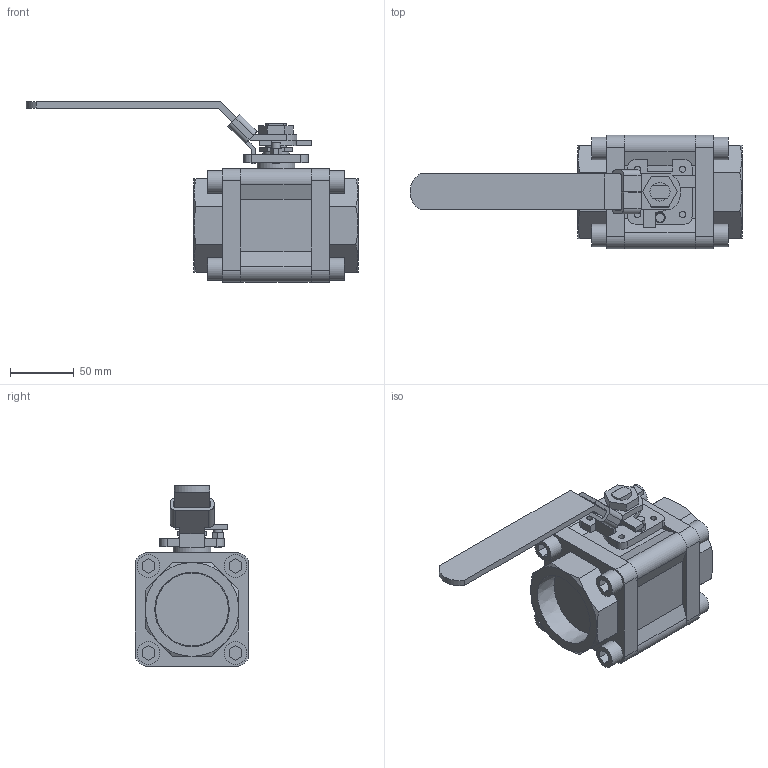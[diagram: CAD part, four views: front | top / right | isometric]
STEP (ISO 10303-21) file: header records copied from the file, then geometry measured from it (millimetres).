
FILE_DESCRIPTION((' '),'2;1');
FILE_NAME('N:\Technical Support\Private\Jomar Valve CAD\Ball Valves\CS and SS\2001N-4B\2.0 T-SS-2001N-4B (600-608) FusionCopy.stp.step','2016-07-05T12:09:59',(' '),(' '),' ','ACIS',' ');
FILE_SCHEMA(('CONFIG_CONTROL_DESIGN'));
Length unit declared in the file: inch
Products named in the file (20): N:\Technical Support\Private\Jomar Valve CAD\Ball Valves\CS and SS\2001N-4B\2.0 T-SS-2001N-4B (600-608) FusionCopy.stp.step; Body1; Body2; Body3; Body4; Body5; Body6; Body7; Body8; Body9; Body10; Body11; Body12; Body13; Body14; Body15; Body16; Body17; Body18; Body19
Assembly tree (19 placements, depth 2):
  N:\Technical Support\Private\Jomar Valve CAD\Ball Valves\CS and SS\2001N-4B\2.0 T-SS-2001N-4B (600-608) FusionCopy.stp.step
    Body1
    Body2
    Body3
    Body4
    Body5
    Body6
    Body7
    Body8
    Body9
    Body10
    Body11
    Body12
    Body13
    Body14
    Body15
    Body16
    Body17
    Body18
    Body19
Bounding box: 259.84 x 88.9 x 141.24 mm (x, y, z)
Volume: 796555.9 mm3; surface area: 135195 mm2
Topology: 19 solids, 19 shells, 282 faces, 666 edges, 439 vertices
Faces by surface type: plane 159, bspline 70, cylinder 43, cone 10
Full cylindrical faces by diameter (mm): 4.826 x5, 5.893 x1, 7.01 x1, 14.554 x1, 15.875 x1, 17.78 x4, 20.701 x1, 29.591 x1
Entity records: 11100 total; most frequent: CARTESIAN_POINT 1990, ORIENTED_EDGE 1284, DIRECTION 1241, EDGE_CURVE 642, VECTOR 481, LINE 481, VERTEX_POINT 437, AXIS2_PLACEMENT_3D 380
